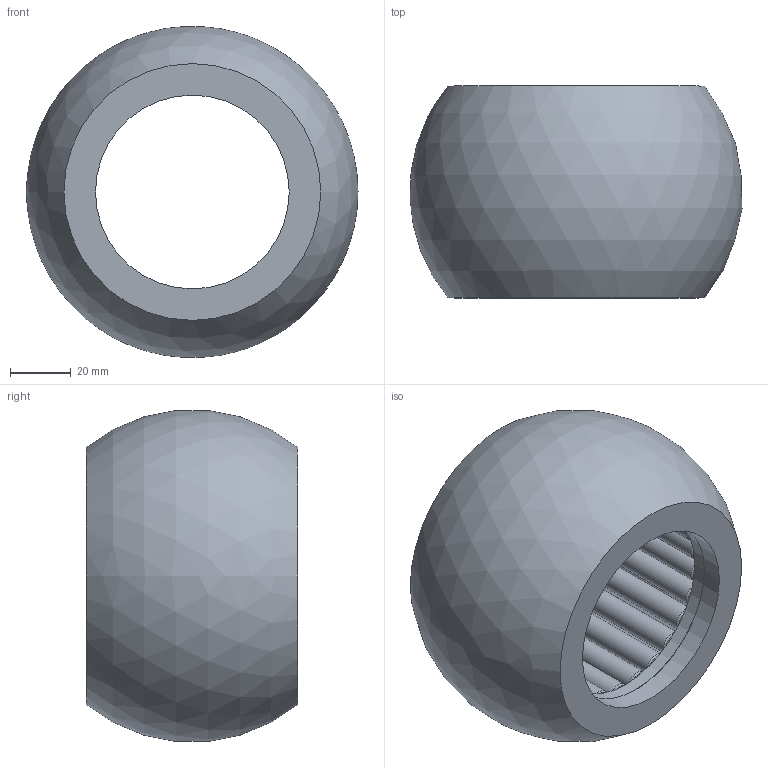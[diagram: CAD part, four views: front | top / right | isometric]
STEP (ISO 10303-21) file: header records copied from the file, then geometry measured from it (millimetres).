
FILE_DESCRIPTION(('STEP AP214'),'1');
FILE_NAME('C:/Projets/Serie 15.xx.xx/15.xx.64.step','2011-11-14T14:46:09',(' '),(' '),'Spatial InterOp 3D',' ',' ');
FILE_SCHEMA(('automotive_design'));
Length unit declared in the file: metre
Products named in the file (29): frette; rotule; @1043; @1038
Bounding box: 109.69 x 70 x 109.31 mm (x, y, z)
Volume: 317441.4 mm3; surface area: 123358.1 mm2
Topology: 29 solids, 29 shells, 350 faces, 663 edges, 425 vertices
Faces by surface type: cylinder 136, plane 112, cone 101, sphere 1
Full cylindrical faces by diameter (mm): 2.8 x50, 3.5 x50, 8 x25, 64 x2, 65 x2, 79 x2, 80 x1, 81 x2, 88 x2
Entity records: 10706 total; most frequent: DIRECTION 1508, CARTESIAN_POINT 1129, AXIS2_PLACEMENT_3D 754, EDGE_LOOP 750, ORIENTED_EDGE 750, FACE_OUTER_BOUND 487, EDGE_CURVE 375, VERTEX_POINT 375
